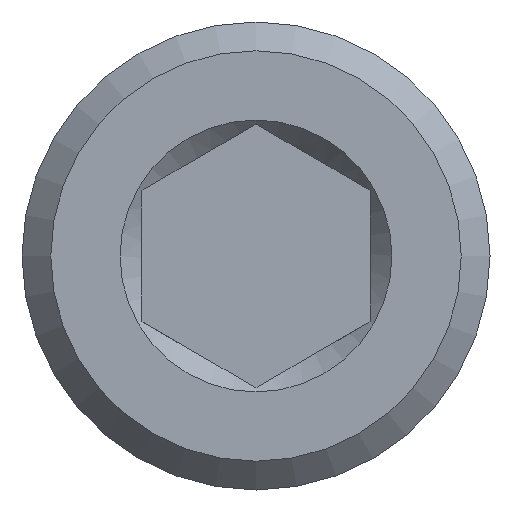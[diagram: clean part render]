
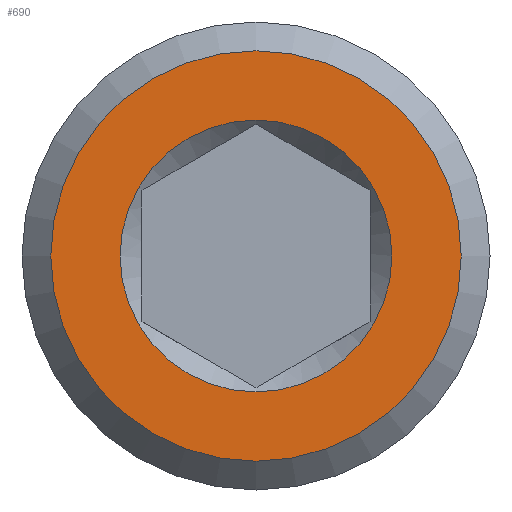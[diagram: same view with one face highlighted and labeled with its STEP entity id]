
A CAD part, front view. The second image highlights one B-rep face of the part: STEP entity #690.
In plain terms, the highlighted planar face has unit normal (0, -1, 0).
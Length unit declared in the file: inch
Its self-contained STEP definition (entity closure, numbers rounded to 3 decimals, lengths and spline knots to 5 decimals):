
#15=FACE_BOUND('',#152,.T.);
#72=CIRCLE('',#767,0.149);
#73=CIRCLE('',#769,0.225);
#112=FACE_OUTER_BOUND('',#151,.T.);
#151=EDGE_LOOP('',(#612));
#152=EDGE_LOOP('',(#613));
#322=VERTEX_POINT('',#1545);
#323=VERTEX_POINT('',#1549);
#422=EDGE_CURVE('',#322,#322,#72,.T.);
#423=EDGE_CURVE('',#323,#323,#73,.T.);
#612=ORIENTED_EDGE('',*,*,#423,.F.);
#613=ORIENTED_EDGE('',*,*,#422,.F.);
#654=PLANE('',#768);
#690=ADVANCED_FACE('',(#112,#15),#654,.T.);
#767=AXIS2_PLACEMENT_3D('',#1547,#936,#937);
#768=AXIS2_PLACEMENT_3D('',#1548,#938,#939);
#769=AXIS2_PLACEMENT_3D('',#1550,#940,#941);
#936=DIRECTION('center_axis',(0.,-1.,0.));
#937=DIRECTION('ref_axis',(0.,0.,1.));
#938=DIRECTION('center_axis',(0.,-1.,0.));
#939=DIRECTION('ref_axis',(0.,0.,-1.));
#940=DIRECTION('center_axis',(0.,1.,0.));
#941=DIRECTION('ref_axis',(0.,0.,1.));
#1545=CARTESIAN_POINT('',(0.,0.,-0.149));
#1547=CARTESIAN_POINT('Origin',(0.,0.,0.));
#1548=CARTESIAN_POINT('Origin',(0.,0.,-0.124));
#1549=CARTESIAN_POINT('',(0.,0.,-0.225));
#1550=CARTESIAN_POINT('Origin',(0.,0.,0.));
